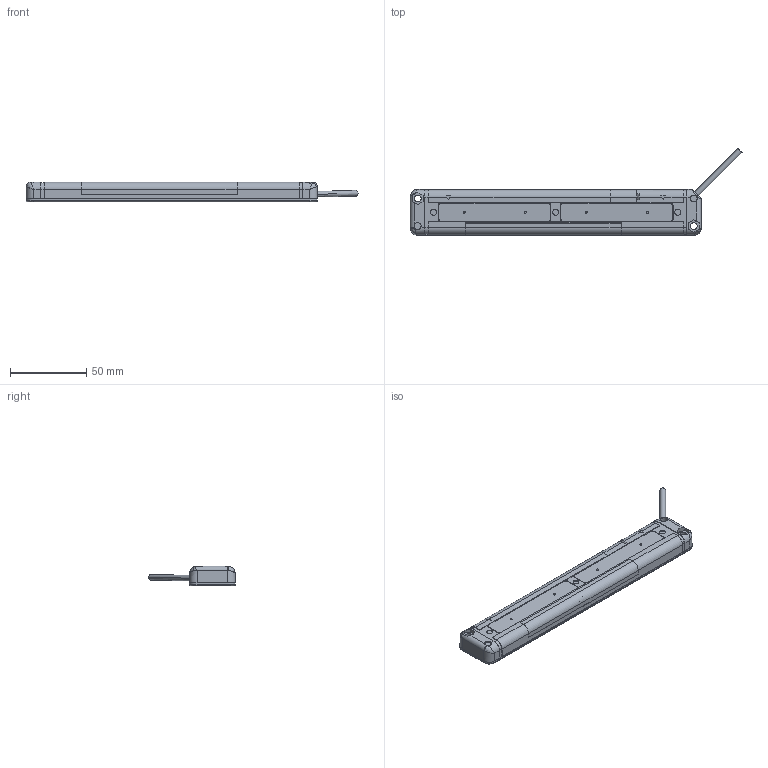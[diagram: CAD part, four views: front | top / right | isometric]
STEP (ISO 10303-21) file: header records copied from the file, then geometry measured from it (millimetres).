
FILE_DESCRIPTION((''),'2;1');
FILE_NAME('SA2-8EYE_ASM','2018-10-19T11:13:53',('Administrator'),(''),'CREO PARAMETRIC BY PTC INC, 2016390','CREO PARAMETRIC BY PTC INC, 2016390','');
FILE_SCHEMA(('AUTOMOTIVE_DESIGN { 1 0 10303 214 1 1 1 1 }'));
Products named in the file (9): ADMI89A7B59F_73; 072-1_6974_1; ADMID3172S3O_4; COVER11; ADMI89A7B59F_93; PCB_8EYES_FASHE; LED_FASHE; LED_8EYES12YES; SA2-8EYE_ASM
Assembly tree (17 placements, depth 2):
  SA2-8EYE_ASM
    ADMI89A7B59F_73
    072-1_6974_1
    ADMID3172S3O_4  x2
    COVER11
    ADMI89A7B59F_93
    PCB_8EYES_FASHE
    LED_FASHE  x8
    LED_8EYES12YES  x2
Bounding box: 217.05 x 56.55 x 13.05 mm (x, y, z)
Volume: 40100.5 mm3; surface area: 52682.5 mm2
Topology: 17 solids, 17 shells, 1687 faces, 4978 edges, 3388 vertices
Faces by surface type: plane 920, cylinder 510, cone 171, torus 39, sphere 38, bspline 9
Entity records: 61660 total; most frequent: CARTESIAN_POINT 13195, ORIENTED_EDGE 9000, DIRECTION 7348, EDGE_CURVE 4500, VERTEX_POINT 3092, PRESENTATION_STYLE_ASSIGNMENT 2732, STYLED_ITEM 2732, CURVE_STYLE 2728
